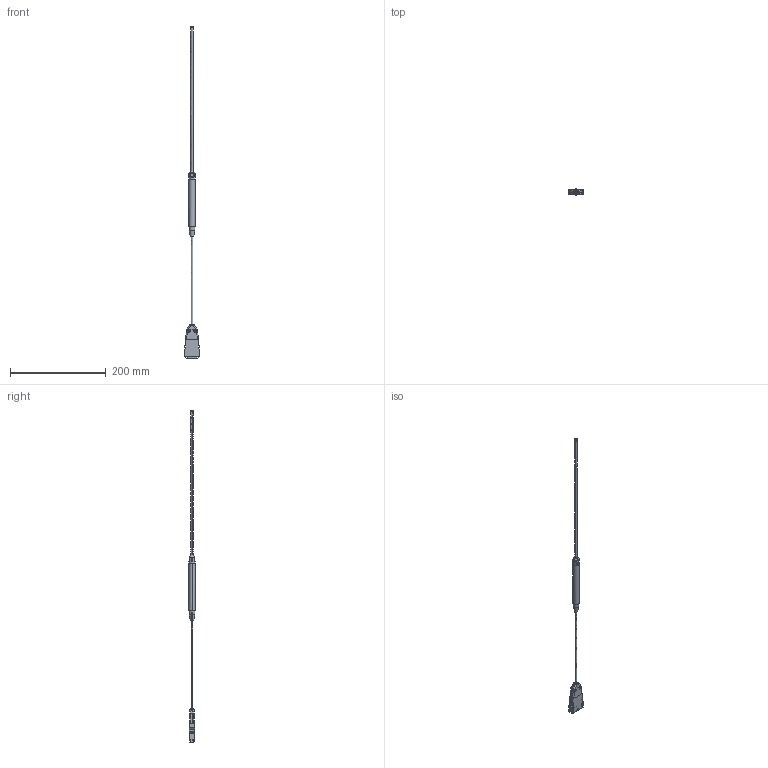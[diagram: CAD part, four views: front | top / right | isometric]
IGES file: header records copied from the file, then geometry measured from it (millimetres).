
Start section: SolidWorks IGES file using analytic representation for surfaces
Global section: file name: C:\Users\jeremy.bluestein\OneDrive - Lake Shore Cryotronics\XIP Gaussmeter\Cryo Probe\FP-2X-250-AC_defeature4_defeature.IGS; native system: SolidWorks 2020; preprocessor: SolidWorks 2020; author: Jeremy.Bluestein; date: 210219.162702; units: millimetre
Bounding box: 33.27 x 13 x 694.64 mm (x, y, z)
Surface area: 19922.5 mm2 (no closed solid volume)
Topology: 0 solids, 0 shells, 585 faces, 5031 edges, 5027 vertices
Faces by surface type: bspline 585
